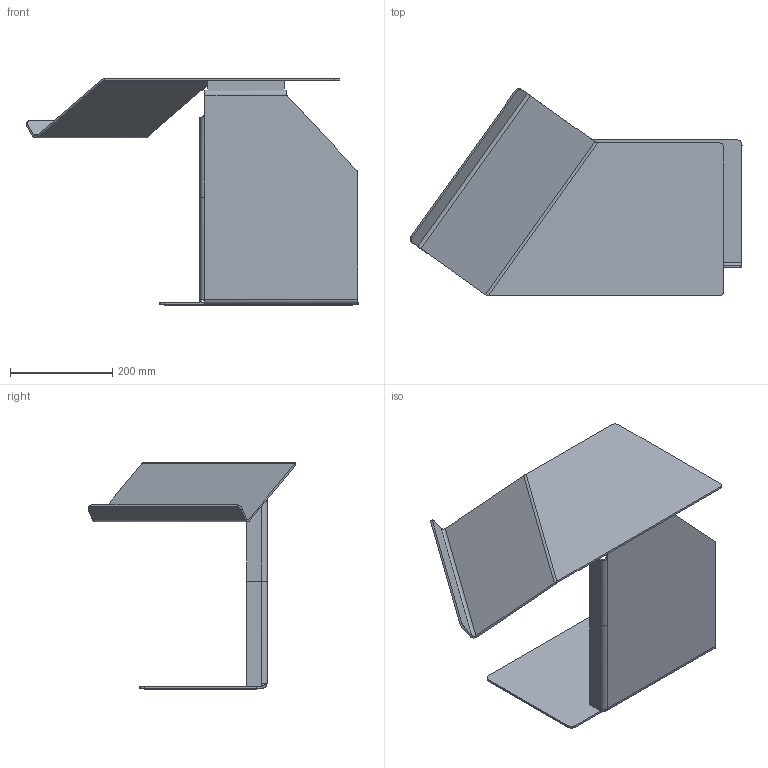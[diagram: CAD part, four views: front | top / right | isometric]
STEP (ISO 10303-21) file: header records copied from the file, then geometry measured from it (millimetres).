
FILE_DESCRIPTION(/* description */ (''),/* implementation_level */ '2;1');
FILE_NAME(/* name */ 'KG_Diana_F_3D_JS_20230718',/* time_stamp */ '2023-07-18T11:36:58+02:00',/* author */ (''),/* organization */ (''),/* preprocessor_version */ 'ST-DEVELOPER v16.5',/* originating_system */ 'Rhino 7.31',/* authorisation */ '');
FILE_SCHEMA (('CONFIG_CONTROL_DESIGN'));
Length unit declared in the file: millimetre
Products named in the file (1): Document
Bounding box: 650.92 x 407.31 x 444.09 mm (x, y, z)
Volume: 1348399.9 mm3; surface area: 1127054.2 mm2
Topology: 3 solids, 6 shells, 91 faces, 236 edges, 147 vertices
Faces by surface type: plane 49, cylinder 22, bspline 20
Entity records: 4817 total; most frequent: CARTESIAN_POINT 3154, ORIENTED_EDGE 445, EDGE_CURVE 237, B_SPLINE_CURVE_WITH_KNOTS 220, VERTEX_POINT 148, ADVANCED_FACE 91, FACE_OUTER_BOUND 91, EDGE_LOOP 91
